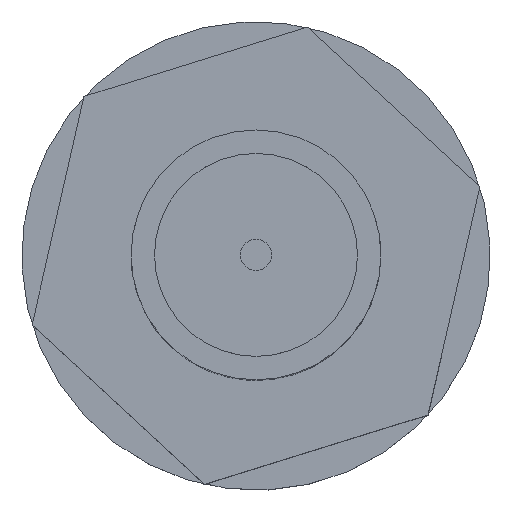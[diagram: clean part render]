
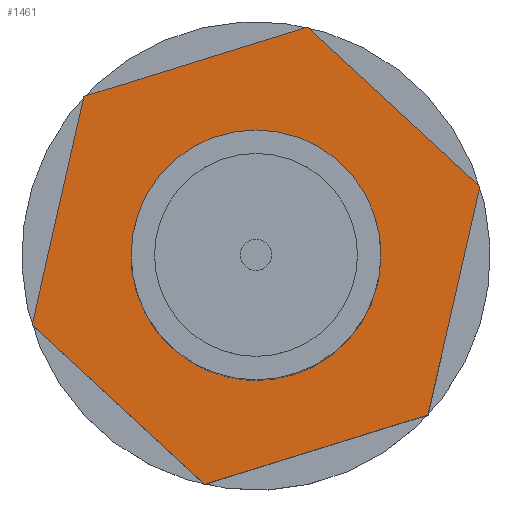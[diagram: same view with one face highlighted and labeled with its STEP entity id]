
A CAD part, top view. The second image highlights one B-rep face of the part: STEP entity #1461.
In plain terms, the highlighted planar face has unit normal (0, 0, 1).
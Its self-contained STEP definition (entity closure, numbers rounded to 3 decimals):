
#5 = VERTEX_POINT ( 'NONE', #1564 ) ;
#10 = LINE ( 'NONE', #1557, #526 ) ;
#15 = VECTOR ( 'NONE', #953, 1000. ) ;
#19 = CARTESIAN_POINT ( 'NONE',  ( 0., 0., 0. ) ) ;
#26 = VECTOR ( 'NONE', #1349, 1000. ) ;
#61 = VERTEX_POINT ( 'NONE', #155 ) ;
#71 = VERTEX_POINT ( 'NONE', #1342 ) ;
#81 = EDGE_LOOP ( 'NONE', ( #133, #1626, #1599, #509, #1191, #407 ) ) ;
#91 = CARTESIAN_POINT ( 'NONE',  ( 3.753, -6.5, 0. ) ) ;
#114 = EDGE_CURVE ( 'NONE', #501, #5, #1300, .T. ) ;
#123 = DIRECTION ( 'NONE',  ( 0., 0., 1. ) ) ;
#124 = VERTEX_POINT ( 'NONE', #1434 ) ;
#129 = VECTOR ( 'NONE', #940, 1000. ) ;
#133 = ORIENTED_EDGE ( 'NONE', *, *, #506, .T. ) ;
#155 = CARTESIAN_POINT ( 'NONE',  ( -4., 0., 0. ) ) ;
#254 = VECTOR ( 'NONE', #269, 1000. ) ;
#269 = DIRECTION ( 'NONE',  ( -0.5, 0.866, 0. ) ) ;
#295 = CARTESIAN_POINT ( 'NONE',  ( -7.596, -6.5, 0. ) ) ;
#327 = DIRECTION ( 'NONE',  ( 1., 0., 0. ) ) ;
#407 = ORIENTED_EDGE ( 'NONE', *, *, #1307, .T. ) ;
#442 = VECTOR ( 'NONE', #1214, 1000. ) ;
#448 = CARTESIAN_POINT ( 'NONE',  ( 7.506, 0., 0. ) ) ;
#487 = AXIS2_PLACEMENT_3D ( 'NONE', #686, #500, #327 ) ;
#500 = DIRECTION ( 'NONE',  ( 0., 0., 1. ) ) ;
#501 = VERTEX_POINT ( 'NONE', #1329 ) ;
#506 = EDGE_CURVE ( 'NONE', #688, #124, #626, .T. ) ;
#509 = ORIENTED_EDGE ( 'NONE', *, *, #783, .T. ) ;
#516 = EDGE_CURVE ( 'NONE', #124, #501, #1290, .T. ) ;
#526 = VECTOR ( 'NONE', #1378, 1000. ) ;
#626 = LINE ( 'NONE', #448, #254 ) ;
#650 = PLANE ( 'NONE',  #1508 ) ;
#686 = CARTESIAN_POINT ( 'NONE',  ( 0., 0., 0. ) ) ;
#688 = VERTEX_POINT ( 'NONE', #1080 ) ;
#729 = ORIENTED_EDGE ( 'NONE', *, *, #1310, .F. ) ;
#783 = EDGE_CURVE ( 'NONE', #5, #71, #1713, .T. ) ;
#844 = CARTESIAN_POINT ( 'NONE',  ( 4., 0., 0. ) ) ;
#862 = DIRECTION ( 'NONE',  ( 1., 0., 0. ) ) ;
#940 = DIRECTION ( 'NONE',  ( -1., 0., 0. ) ) ;
#953 = DIRECTION ( 'NONE',  ( -0.5, -0.866, 0. ) ) ;
#1032 = DIRECTION ( 'NONE',  ( 0., 0., 1. ) ) ;
#1052 = VERTEX_POINT ( 'NONE', #844 ) ;
#1053 = FACE_BOUND ( 'NONE', #1322, .T. ) ;
#1080 = CARTESIAN_POINT ( 'NONE',  ( 7.506, 0., 0. ) ) ;
#1087 = CIRCLE ( 'NONE', #487, 4. ) ;
#1120 = CARTESIAN_POINT ( 'NONE',  ( 0., 6.5, 0. ) ) ;
#1123 = VERTEX_POINT ( 'NONE', #91 ) ;
#1129 = CARTESIAN_POINT ( 'NONE',  ( -3.753, 6.5, 0. ) ) ;
#1157 = ORIENTED_EDGE ( 'NONE', *, *, #1316, .F. ) ;
#1178 = EDGE_CURVE ( 'NONE', #71, #1123, #10, .T. ) ;
#1191 = ORIENTED_EDGE ( 'NONE', *, *, #1178, .T. ) ;
#1214 = DIRECTION ( 'NONE',  ( 0.5, 0.866, 0. ) ) ;
#1236 = AXIS2_PLACEMENT_3D ( 'NONE', #19, #1032, #862 ) ;
#1290 = LINE ( 'NONE', #1120, #129 ) ;
#1300 = LINE ( 'NONE', #1129, #15 ) ;
#1307 = EDGE_CURVE ( 'NONE', #1123, #688, #1565, .T. ) ;
#1310 = EDGE_CURVE ( 'NONE', #1052, #61, #1351, .T. ) ;
#1316 = EDGE_CURVE ( 'NONE', #61, #1052, #1087, .T. ) ;
#1322 = EDGE_LOOP ( 'NONE', ( #729, #1157 ) ) ;
#1329 = CARTESIAN_POINT ( 'NONE',  ( -3.753, 6.5, 0. ) ) ;
#1342 = CARTESIAN_POINT ( 'NONE',  ( -3.753, -6.5, 0. ) ) ;
#1349 = DIRECTION ( 'NONE',  ( 0.5, -0.866, 0. ) ) ;
#1351 = CIRCLE ( 'NONE', #1236, 4. ) ;
#1378 = DIRECTION ( 'NONE',  ( 1., 0., 0. ) ) ;
#1388 = CARTESIAN_POINT ( 'NONE',  ( 3.753, -6.5, 0. ) ) ;
#1411 = FACE_OUTER_BOUND ( 'NONE', #81, .T. ) ;
#1434 = CARTESIAN_POINT ( 'NONE',  ( 3.753, 6.5, 0. ) ) ;
#1461 = ADVANCED_FACE ( 'NONE', ( #1053, #1411 ), #650, .T. ) ;
#1508 = AXIS2_PLACEMENT_3D ( 'NONE', #295, #123, #1677 ) ;
#1536 = CARTESIAN_POINT ( 'NONE',  ( -7.506, 0., 0. ) ) ;
#1557 = CARTESIAN_POINT ( 'NONE',  ( 0., -6.5, 0. ) ) ;
#1564 = CARTESIAN_POINT ( 'NONE',  ( -7.506, 0., 0. ) ) ;
#1565 = LINE ( 'NONE', #1388, #442 ) ;
#1599 = ORIENTED_EDGE ( 'NONE', *, *, #114, .T. ) ;
#1626 = ORIENTED_EDGE ( 'NONE', *, *, #516, .T. ) ;
#1677 = DIRECTION ( 'NONE',  ( 1., 0., 0. ) ) ;
#1713 = LINE ( 'NONE', #1536, #26 ) ;
